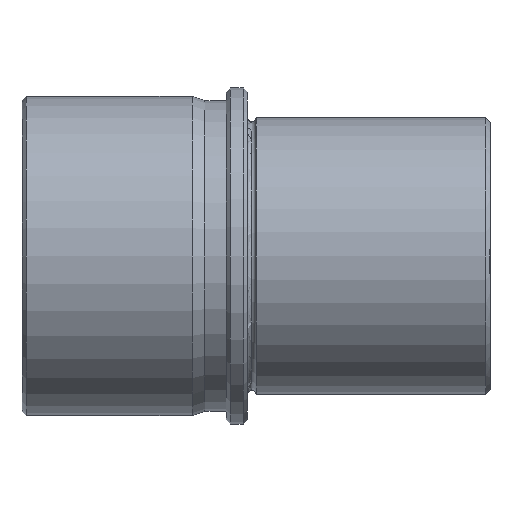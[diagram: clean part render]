
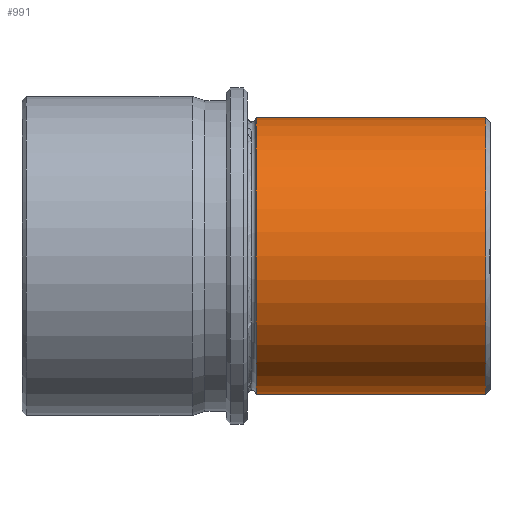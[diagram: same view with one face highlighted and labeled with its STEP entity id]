
A CAD part, left-side view. The second image highlights one B-rep face of the part: STEP entity #991.
In plain terms, the highlighted cylindrical face has radius 32.5 mm (diameter 65 mm), a partial arc.
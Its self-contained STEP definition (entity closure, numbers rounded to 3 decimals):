
#803=CARTESIAN_POINT('Vertex',(0.,1.,32.5)) ;
#810=CARTESIAN_POINT('Vertex',(0.,1.,-32.5)) ;
#839=CARTESIAN_POINT('Axis2P3D Location',(0.,1.,0.)) ;
#843=CARTESIAN_POINT('Vertex',(-32.5,1.,0.)) ;
#846=CARTESIAN_POINT('Axis2P3D Location',(0.,1.,0.)) ;
#931=CARTESIAN_POINT('Line Origine',(0.,0.,-32.5)) ;
#935=CARTESIAN_POINT('Vertex',(0.,55.,-32.5)) ;
#949=CARTESIAN_POINT('Vertex',(0.,55.,32.5)) ;
#952=CARTESIAN_POINT('Line Origine',(0.,0.,32.5)) ;
#966=CARTESIAN_POINT('Axis2P3D Location',(0.,0.,0.)) ;
#971=CARTESIAN_POINT('Axis2P3D Location',(0.,55.,0.)) ;
#975=CARTESIAN_POINT('Vertex',(-32.5,55.,0.)) ;
#978=CARTESIAN_POINT('Axis2P3D Location',(0.,55.,0.)) ;
#840=DIRECTION('Axis2P3D Direction',(-0.,1.,0.)) ;
#847=DIRECTION('Axis2P3D Direction',(-0.,1.,0.)) ;
#932=DIRECTION('Vector Direction',(0.,1.,0.)) ;
#953=DIRECTION('Vector Direction',(0.,1.,0.)) ;
#967=DIRECTION('Axis2P3D Direction',(0.,1.,0.)) ;
#968=DIRECTION('Axis2P3D XDirection',(0.,0.,-1.)) ;
#972=DIRECTION('Axis2P3D Direction',(0.,1.,0.)) ;
#979=DIRECTION('Axis2P3D Direction',(0.,1.,0.)) ;
#841=AXIS2_PLACEMENT_3D('Circle Axis2P3D',#839,#840,$) ;
#848=AXIS2_PLACEMENT_3D('Circle Axis2P3D',#846,#847,$) ;
#969=AXIS2_PLACEMENT_3D('Cylinder Axis2P3D',#966,#967,#968) ;
#973=AXIS2_PLACEMENT_3D('Circle Axis2P3D',#971,#972,$) ;
#980=AXIS2_PLACEMENT_3D('Circle Axis2P3D',#978,#979,$) ;
#984=ORIENTED_EDGE('',*,*,#956,.T.) ;
#985=ORIENTED_EDGE('',*,*,#977,.T.) ;
#986=ORIENTED_EDGE('',*,*,#982,.T.) ;
#987=ORIENTED_EDGE('',*,*,#937,.T.) ;
#988=ORIENTED_EDGE('',*,*,#850,.F.) ;
#989=ORIENTED_EDGE('',*,*,#845,.F.) ;
#933=VECTOR('Line Direction',#932,1.) ;
#954=VECTOR('Line Direction',#953,1.) ;
#991=ADVANCED_FACE('CF 450 52x110',(#990),#970,.T.) ;
#842=CIRCLE('generated circle',#841,32.5) ;
#849=CIRCLE('generated circle',#848,32.5) ;
#974=CIRCLE('generated circle',#973,32.5) ;
#981=CIRCLE('generated circle',#980,32.5) ;
#970=CYLINDRICAL_SURFACE('generated cylinder',#969,32.5) ;
#845=EDGE_CURVE('',#804,#844,#842,.F.) ;
#850=EDGE_CURVE('',#844,#811,#849,.F.) ;
#937=EDGE_CURVE('',#936,#811,#934,.F.) ;
#956=EDGE_CURVE('',#804,#950,#955,.T.) ;
#977=EDGE_CURVE('',#950,#976,#974,.F.) ;
#982=EDGE_CURVE('',#976,#936,#981,.F.) ;
#983=EDGE_LOOP('',(#984,#985,#986,#987,#988,#989)) ;
#990=FACE_OUTER_BOUND('',#983,.T.) ;
#934=LINE('Line',#931,#933) ;
#955=LINE('Line',#952,#954) ;
#804=VERTEX_POINT('',#803) ;
#811=VERTEX_POINT('',#810) ;
#844=VERTEX_POINT('',#843) ;
#936=VERTEX_POINT('',#935) ;
#950=VERTEX_POINT('',#949) ;
#976=VERTEX_POINT('',#975) ;
